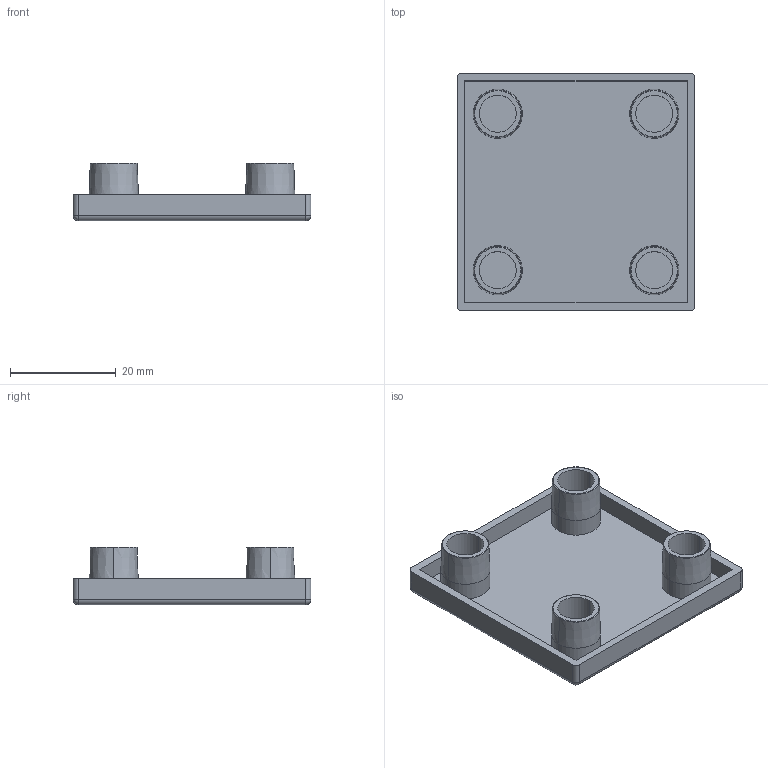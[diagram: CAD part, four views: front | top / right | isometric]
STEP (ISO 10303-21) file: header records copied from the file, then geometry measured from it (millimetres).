
FILE_DESCRIPTION (( 'STEP AP203' ), '1' );
FILE_NAME ('DEC4545.STEP', '2022-06-24T01:49:39', ( '' ), ( '' ), 'SwSTEP 2.0', 'SolidWorks 2017', '' );
FILE_SCHEMA (( 'CONFIG_CONTROL_DESIGN' ));
Length unit declared in the file: millimetre
Products named in the file (1): DEC4545
Bounding box: 45 x 45 x 10.9 mm (x, y, z)
Volume: 4946.5 mm3; surface area: 7334.1 mm2
Topology: 1 solids, 1 shells, 63 faces, 132 edges, 76 vertices
Faces by surface type: cylinder 24, plane 19, torus 8, cone 8, sphere 4
Entity records: 1727 total; most frequent: DIRECTION 328, CARTESIAN_POINT 268, ORIENTED_EDGE 256, AXIS2_PLACEMENT_3D 136, EDGE_CURVE 128, VERTEX_POINT 76, EDGE_LOOP 72, CIRCLE 72
